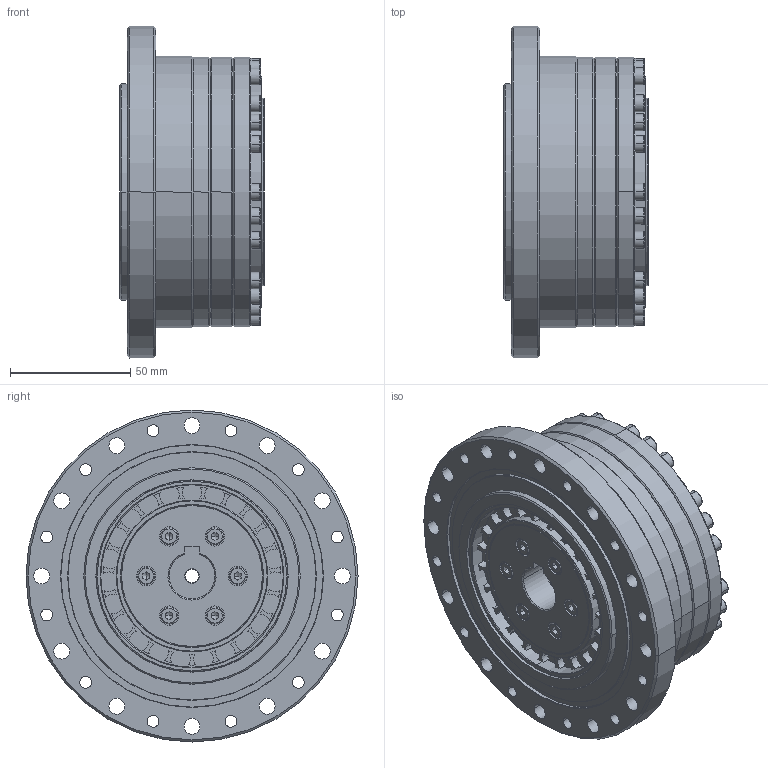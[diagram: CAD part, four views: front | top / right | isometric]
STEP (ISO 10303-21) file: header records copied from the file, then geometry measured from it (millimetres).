
FILE_DESCRIPTION(('STEP AP214'),'1');
FILE_NAME('cctmp_5032FB83-C3E0-4D2B-8145-075AFB3B3486_2025_03_06_11_18_55_0060_64336..stp','2025-03-06T10:18:55',('HIWIN GmbH'),('CADClick - www.CADClick.com'),'Spatial InterOp 3D',' ','unknown authorization');
FILE_SCHEMA(('AUTOMOTIVE_DESIGN'));
Length unit declared in the file: millimetre
Products named in the file (2): DSC-32-XX-PO-C_FILE; 2025_03_06_11_18_55_0029
Assembly tree (1 placements, depth 2):
  DSC-32-XX-PO-C_FILE
    2025_03_06_11_18_55_0029
Bounding box: 60 x 138 x 138 mm (x, y, z)
Volume: 564579.4 mm3; surface area: 78650.5 mm2
Topology: 1 solids, 7 shells, 879 faces, 2189 edges, 1368 vertices
Faces by surface type: cylinder 339, plane 295, cone 165, torus 80
Entity records: 33810 total; most frequent: CARTESIAN_POINT 5531, DIRECTION 4677, ORIENTED_EDGE 4258, EDGE_CURVE 2129, AXIS2_PLACEMENT_3D 1903, VERTEX_POINT 1368, EDGE_LOOP 1045, CIRCLE 1022
